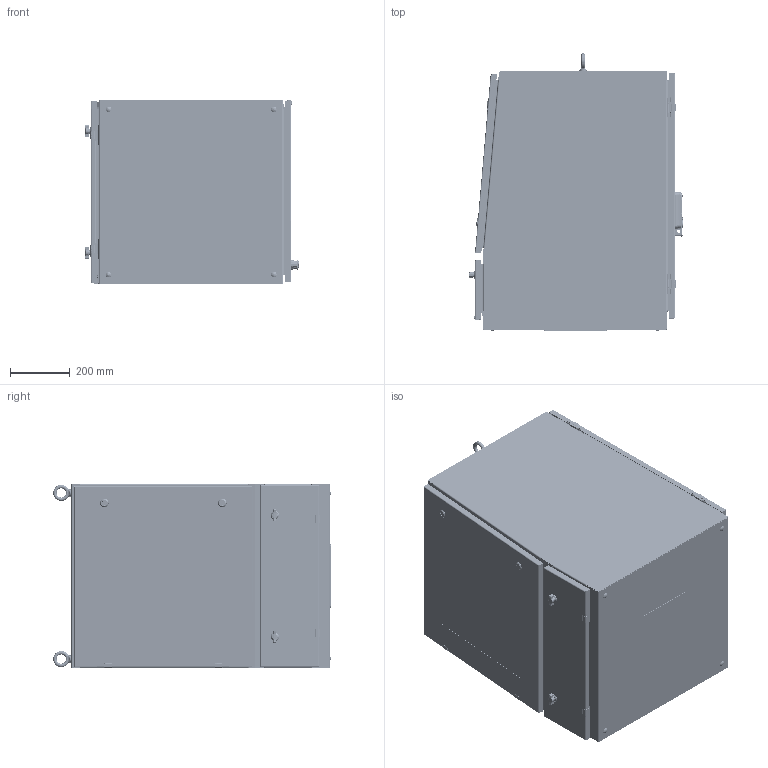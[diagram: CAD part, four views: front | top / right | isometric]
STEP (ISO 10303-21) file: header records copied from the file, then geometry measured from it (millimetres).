
FILE_DESCRIPTION((''),'2;1');
FILE_NAME('MODEL-193_ASM','2021-09-29T08:40:12',('johnh'),('SAGINAW CONTROL & ENGINEERING'),'CREO PARAMETRIC BY PTC INC, 2017260','CREO PARAMETRIC BY PTC INC, 2017260','');
FILE_SCHEMA(('AUTOMOTIVE_DESIGN { 1 0 10303 214 1 1 1 1 }'));
Length unit declared in the file: inch
Products named in the file (103): MODEL-193-TP; MODEL-193-R-SD; MODEL-193-L-SD; MODEL-193-BTM; MODEL-193-CC; MODEL-193-FU-DR; MODEL-193-PR-GSKT-FU; 100794_SHAFT; 100794_INSERT; 102804_CAM_28MM; 100794_NUT; 100794_SCREW; 100794_ASM; MODEL-193-LEX; 118622; 117899; 118662; 103465; 126392; 126397; 126392_ASM; 126395; 102483; 101389; 101226; 102140; MODEL-193-FU-DOOR-ASSY_ASM; MODEL-193-KB-DR; MODEL-193-PR-GSKT-KB; 101080_SHAFT; 101080_HANDLE; 101080_INSERT; 101080_NUT; 101080_SCREW; 101080_ASM; MODEL-193-KB-DOOR-ASSY_ASM; MODEL-193-R-DR; MODEL-193-PR-GSKT-R; 100837; 129333-HANDLE-BASE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
Assembly tree (241 placements, depth 5):
  MODEL-193_ASM
    MODEL-193-TP
    MODEL-193-R-SD
    MODEL-193-L-SD
    MODEL-193-BTM
    MODEL-193-CC
    MODEL-193-FU-DOOR-ASSY_ASM
      MODEL-193-FU-DR
      MODEL-193-PR-GSKT-FU
      100794_ASM  x2
        100794_SHAFT
        100794_INSERT
        102804_CAM_28MM
        100794_NUT
        100794_SCREW
      MODEL-193-LEX
      118622  x8
      117899  x8
      118662  x8
      103465
      126392_ASM  x2
        126392
        126397
      126395  x2
      102483  x6
      101389  x2
      101226  x2
      102140  x2
    MODEL-193-KB-DOOR-ASSY_ASM
      MODEL-193-KB-DR
      MODEL-193-PR-GSKT-KB
      101080_ASM  x2
        101080_SHAFT
        101080_HANDLE
        101080_INSERT
        101080_NUT
        101080_SCREW
        102804_CAM_28MM
      126392_ASM  x2
        126392
        126397
      126395  x2
      102483  x6
      101389  x2
      101226  x2
      102140  x2
    MODEL-193-R-DOOR-ASSY_ASM
      MODEL-193-R-DR
      MODEL-193-PR-GSKT-R
      100837  x3
      129333_ASM
        129333-HANDLE-BASE
        129333-HANDLE-STOP
        129333-CAM-ADAPTER
        129333-LOCK-NUT
        129333-BASE-CAP
        129333-HANDLE_ASM
          129333-HANDLE-SHAFT-O-RING
          129333-HANDLE-LOCK
          129333-HANDLE-SHAFT
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Bounding box: 716.43 x 928.36 x 615.95 mm (x, y, z)
Volume: 11143793.9 mm3; surface area: 10066771.4 mm2
Topology: 251 solids, 251 shells, 15237 faces, 38272 edges, 23528 vertices
Faces by surface type: plane 6212, cylinder 4999, bspline 1728, torus 1143, cone 622, sphere 495, extrusion 30, revolution 8
Entity records: 401441 total; most frequent: CARTESIAN_POINT 141473, ORIENTED_EDGE 36842, DIRECTION 34607, PRESENTATION_STYLE_ASSIGNMENT 20139, STYLED_ITEM 19722, EDGE_CURVE 18421, CURVE_STYLE 18085, AXIS2_PLACEMENT_3D 12927
